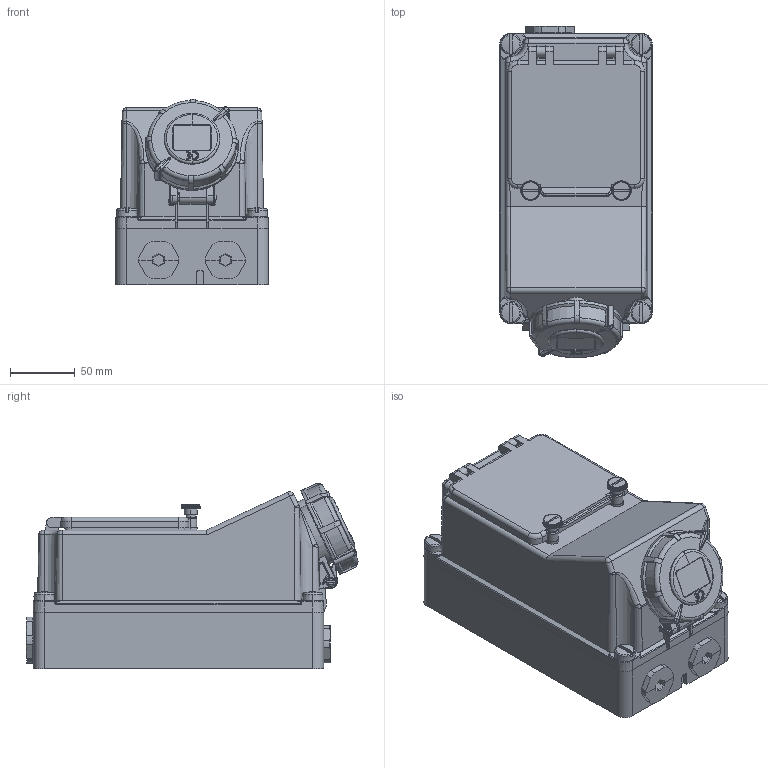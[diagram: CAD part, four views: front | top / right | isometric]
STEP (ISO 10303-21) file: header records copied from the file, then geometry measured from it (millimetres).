
FILE_DESCRIPTION((''),'2;1');
FILE_NAME('7148','2018-07-24T',('fries'),('MENNEKES'),'PRO/ENGINEER BY PARAMETRIC TECHNOLOGY CORPORATION, 2015440','PRO/ENGINEER BY PARAMETRIC TECHNOLOGY CORPORATION, 2015440','');
FILE_SCHEMA(('AUTOMOTIVE_DESIGN { 1 0 10303 214 1 1 1 1 }'));
Products named in the file (1): 7148
Bounding box: 118 x 257.07 x 143.51 mm (x, y, z)
Volume: 2965635.5 mm3; surface area: 158094.8 mm2
Topology: 1 solids, 3 shells, 1451 faces, 3872 edges, 2473 vertices
Faces by surface type: plane 647, cylinder 331, cone 268, bspline 92, torus 75, sphere 38
Entity records: 64848 total; most frequent: CARTESIAN_POINT 19504, ORIENTED_EDGE 7740, DIRECTION 6851, EDGE_CURVE 3870, AXIS2_PLACEMENT_3D 2684, VERTEX_POINT 2473, EDGE_LOOP 1511, VECTOR 1483
